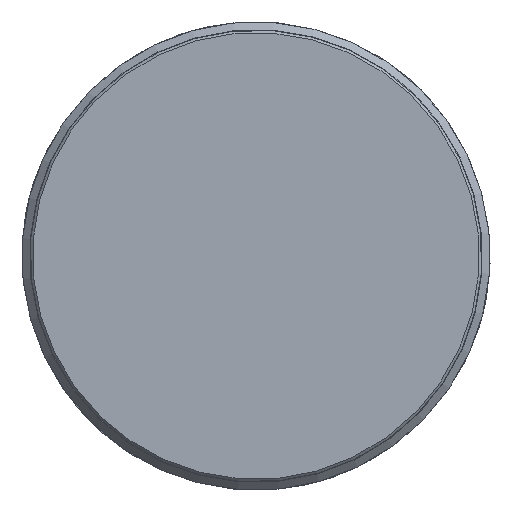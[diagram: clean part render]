
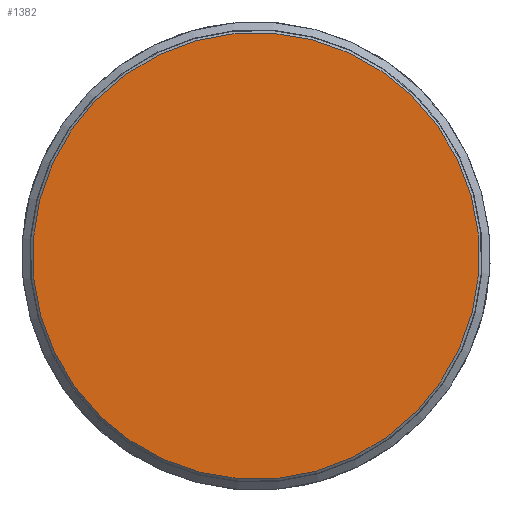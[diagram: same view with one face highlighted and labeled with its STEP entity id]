
A CAD part, left-side view. The second image highlights one B-rep face of the part: STEP entity #1382.
In plain terms, the highlighted planar face has unit normal (-1, 0, 0).
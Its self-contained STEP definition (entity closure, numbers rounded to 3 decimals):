
#1382=ADVANCED_FACE('',(#1899),#1461,.T.);
#1461=PLANE('',#5981);
#1899=FACE_OUTER_BOUND('',#2330,.T.);
#2330=EDGE_LOOP('',(#3886));
#3886=ORIENTED_EDGE('',*,*,#5211,.T.);
#4433=VERTEX_POINT('',#15374);
#5211=EDGE_CURVE('',#4433,#4433,#5444,.T.);
#5444=CIRCLE('',#5980,34.544);
#5980=AXIS2_PLACEMENT_3D('',#15373,#7164,#7165);
#5981=AXIS2_PLACEMENT_3D('',#15375,#7166,#7167);
#7164=DIRECTION('',(-1.,0.,0.));
#7165=DIRECTION('',(0.,0.699,-0.715));
#7166=DIRECTION('',(-1.,0.,0.));
#7167=DIRECTION('',(0.,0.699,-0.715));
#15373=CARTESIAN_POINT('',(-165.507,0.,0.));
#15374=CARTESIAN_POINT('',(-165.507,24.145,-24.704));
#15375=CARTESIAN_POINT('',(-165.507,-15.903,-15.543));
